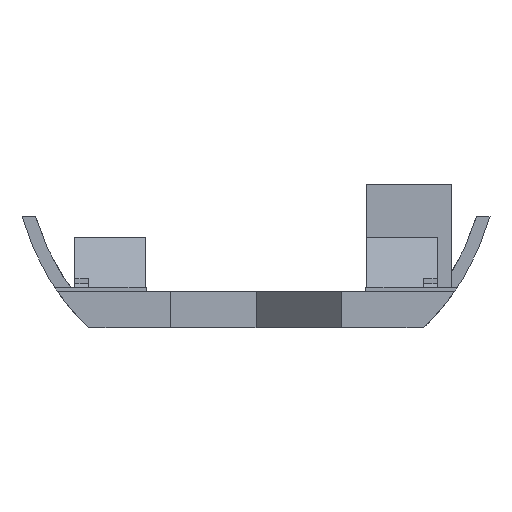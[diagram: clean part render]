
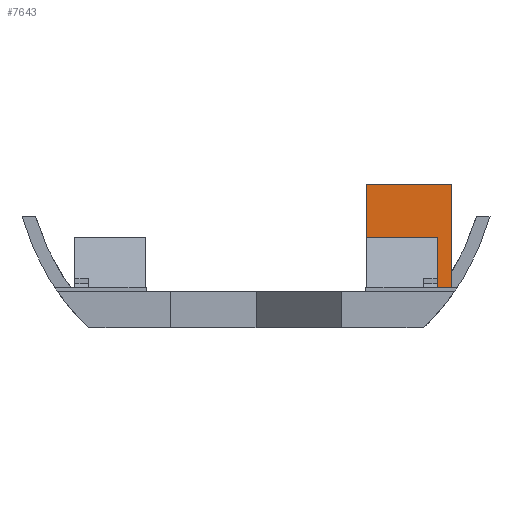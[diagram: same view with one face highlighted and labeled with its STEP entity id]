
A CAD part, left-side view. The second image highlights one B-rep face of the part: STEP entity #7643.
In plain terms, the highlighted planar face has unit normal (-1, 0, 0).
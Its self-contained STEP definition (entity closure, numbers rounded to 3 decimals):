
#32 = PLANE('',#33);
#33 = AXIS2_PLACEMENT_3D('',#34,#35,#36);
#34 = CARTESIAN_POINT('',(71.,-22.,-10.8));
#35 = DIRECTION('',(0.,0.,-1.));
#36 = DIRECTION('',(1.,0.,0.));
#2379 = VERTEX_POINT('',#2380);
#2380 = CARTESIAN_POINT('',(176.5,-8.5,-10.8));
#2395 = PLANE('',#2396);
#2396 = AXIS2_PLACEMENT_3D('',#2397,#2398,#2399);
#2397 = CARTESIAN_POINT('',(176.5,-8.5,-11.3));
#2398 = DIRECTION('',(-0.,1.,0.));
#2399 = DIRECTION('',(0.,0.,1.));
#2406 = EDGE_CURVE('',#2379,#2407,#2409,.T.);
#2407 = VERTEX_POINT('',#2408);
#2408 = CARTESIAN_POINT('',(176.5,-15.1,-10.8));
#2409 = SURFACE_CURVE('',#2410,(#2414,#2420),.PCURVE_S1.);
#2410 = LINE('',#2411,#2412);
#2411 = CARTESIAN_POINT('',(176.5,-18.55,-10.8));
#2412 = VECTOR('',#2413,1.);
#2413 = DIRECTION('',(0.,-1.,0.));
#2414 = PCURVE('',#32,#2415);
#2415 = DEFINITIONAL_REPRESENTATION('',(#2416),#2419);
#2416 = B_SPLINE_CURVE_WITH_KNOTS('',1,(#2417,#2418),.UNSPECIFIED.,.F.,
  .F.,(2,2),(-10.05,-3.45),.PIECEWISE_BEZIER_KNOTS.);
#2417 = CARTESIAN_POINT('',(105.5,-13.5));
#2418 = CARTESIAN_POINT('',(105.5,-6.9));
#2419 = ( GEOMETRIC_REPRESENTATION_CONTEXT(2) 
PARAMETRIC_REPRESENTATION_CONTEXT() REPRESENTATION_CONTEXT('2D SPACE',''
  ) );
#2420 = PCURVE('',#2421,#2426);
#2421 = PLANE('',#2422);
#2422 = AXIS2_PLACEMENT_3D('',#2423,#2424,#2425);
#2423 = CARTESIAN_POINT('',(176.5,-15.1,-11.3));
#2424 = DIRECTION('',(1.,0.,-0.));
#2425 = DIRECTION('',(0.,0.,1.));
#2426 = DEFINITIONAL_REPRESENTATION('',(#2427),#2430);
#2427 = B_SPLINE_CURVE_WITH_KNOTS('',1,(#2428,#2429),.UNSPECIFIED.,.F.,
  .F.,(2,2),(-10.05,-3.45),.PIECEWISE_BEZIER_KNOTS.);
#2428 = CARTESIAN_POINT('',(0.5,-6.6));
#2429 = CARTESIAN_POINT('',(0.5,0.));
#2430 = ( GEOMETRIC_REPRESENTATION_CONTEXT(2) 
PARAMETRIC_REPRESENTATION_CONTEXT() REPRESENTATION_CONTEXT('2D SPACE',''
  ) );
#2447 = PLANE('',#2448);
#2448 = AXIS2_PLACEMENT_3D('',#2449,#2450,#2451);
#2449 = CARTESIAN_POINT('',(176.5,-15.1,-11.3));
#2450 = DIRECTION('',(-0.,1.,0.));
#2451 = DIRECTION('',(0.,0.,1.));
#7595 = EDGE_CURVE('',#2379,#7596,#7598,.T.);
#7596 = VERTEX_POINT('',#7597);
#7597 = CARTESIAN_POINT('',(176.5,-8.5,-2.5));
#7598 = SURFACE_CURVE('',#7599,(#7603,#7610),.PCURVE_S1.);
#7599 = LINE('',#7600,#7601);
#7600 = CARTESIAN_POINT('',(176.5,-8.5,-11.3));
#7601 = VECTOR('',#7602,1.);
#7602 = DIRECTION('',(0.,0.,1.));
#7603 = PCURVE('',#2395,#7604);
#7604 = DEFINITIONAL_REPRESENTATION('',(#7605),#7609);
#7605 = LINE('',#7606,#7607);
#7606 = CARTESIAN_POINT('',(0.,0.));
#7607 = VECTOR('',#7608,1.);
#7608 = DIRECTION('',(1.,0.));
#7609 = ( GEOMETRIC_REPRESENTATION_CONTEXT(2) 
PARAMETRIC_REPRESENTATION_CONTEXT() REPRESENTATION_CONTEXT('2D SPACE',''
  ) );
#7610 = PCURVE('',#2421,#7611);
#7611 = DEFINITIONAL_REPRESENTATION('',(#7612),#7616);
#7612 = LINE('',#7613,#7614);
#7613 = CARTESIAN_POINT('',(0.,-6.6));
#7614 = VECTOR('',#7615,1.);
#7615 = DIRECTION('',(1.,0.));
#7616 = ( GEOMETRIC_REPRESENTATION_CONTEXT(2) 
PARAMETRIC_REPRESENTATION_CONTEXT() REPRESENTATION_CONTEXT('2D SPACE',''
  ) );
#7632 = PLANE('',#7633);
#7633 = AXIS2_PLACEMENT_3D('',#7634,#7635,#7636);
#7634 = CARTESIAN_POINT('',(176.5,-15.1,-2.5));
#7635 = DIRECTION('',(0.,0.,1.));
#7636 = DIRECTION('',(1.,0.,-0.));
#7643 = ADVANCED_FACE('',(#7644),#2421,.F.);
#7644 = FACE_BOUND('',#7645,.F.);
#7645 = EDGE_LOOP('',(#7646,#7669,#7670,#7671));
#7646 = ORIENTED_EDGE('',*,*,#7647,.F.);
#7647 = EDGE_CURVE('',#2407,#7648,#7650,.T.);
#7648 = VERTEX_POINT('',#7649);
#7649 = CARTESIAN_POINT('',(176.5,-15.1,-2.5));
#7650 = SURFACE_CURVE('',#7651,(#7655,#7662),.PCURVE_S1.);
#7651 = LINE('',#7652,#7653);
#7652 = CARTESIAN_POINT('',(176.5,-15.1,-11.3));
#7653 = VECTOR('',#7654,1.);
#7654 = DIRECTION('',(0.,0.,1.));
#7655 = PCURVE('',#2421,#7656);
#7656 = DEFINITIONAL_REPRESENTATION('',(#7657),#7661);
#7657 = LINE('',#7658,#7659);
#7658 = CARTESIAN_POINT('',(0.,0.));
#7659 = VECTOR('',#7660,1.);
#7660 = DIRECTION('',(1.,0.));
#7661 = ( GEOMETRIC_REPRESENTATION_CONTEXT(2) 
PARAMETRIC_REPRESENTATION_CONTEXT() REPRESENTATION_CONTEXT('2D SPACE',''
  ) );
#7662 = PCURVE('',#2447,#7663);
#7663 = DEFINITIONAL_REPRESENTATION('',(#7664),#7668);
#7664 = LINE('',#7665,#7666);
#7665 = CARTESIAN_POINT('',(0.,0.));
#7666 = VECTOR('',#7667,1.);
#7667 = DIRECTION('',(1.,0.));
#7668 = ( GEOMETRIC_REPRESENTATION_CONTEXT(2) 
PARAMETRIC_REPRESENTATION_CONTEXT() REPRESENTATION_CONTEXT('2D SPACE',''
  ) );
#7669 = ORIENTED_EDGE('',*,*,#2406,.F.);
#7670 = ORIENTED_EDGE('',*,*,#7595,.T.);
#7671 = ORIENTED_EDGE('',*,*,#7672,.F.);
#7672 = EDGE_CURVE('',#7648,#7596,#7673,.T.);
#7673 = SURFACE_CURVE('',#7674,(#7678,#7685),.PCURVE_S1.);
#7674 = LINE('',#7675,#7676);
#7675 = CARTESIAN_POINT('',(176.5,-15.1,-2.5));
#7676 = VECTOR('',#7677,1.);
#7677 = DIRECTION('',(-0.,1.,0.));
#7678 = PCURVE('',#2421,#7679);
#7679 = DEFINITIONAL_REPRESENTATION('',(#7680),#7684);
#7680 = LINE('',#7681,#7682);
#7681 = CARTESIAN_POINT('',(8.8,0.));
#7682 = VECTOR('',#7683,1.);
#7683 = DIRECTION('',(0.,-1.));
#7684 = ( GEOMETRIC_REPRESENTATION_CONTEXT(2) 
PARAMETRIC_REPRESENTATION_CONTEXT() REPRESENTATION_CONTEXT('2D SPACE',''
  ) );
#7685 = PCURVE('',#7632,#7686);
#7686 = DEFINITIONAL_REPRESENTATION('',(#7687),#7691);
#7687 = LINE('',#7688,#7689);
#7688 = CARTESIAN_POINT('',(0.,0.));
#7689 = VECTOR('',#7690,1.);
#7690 = DIRECTION('',(0.,1.));
#7691 = ( GEOMETRIC_REPRESENTATION_CONTEXT(2) 
PARAMETRIC_REPRESENTATION_CONTEXT() REPRESENTATION_CONTEXT('2D SPACE',''
  ) );
